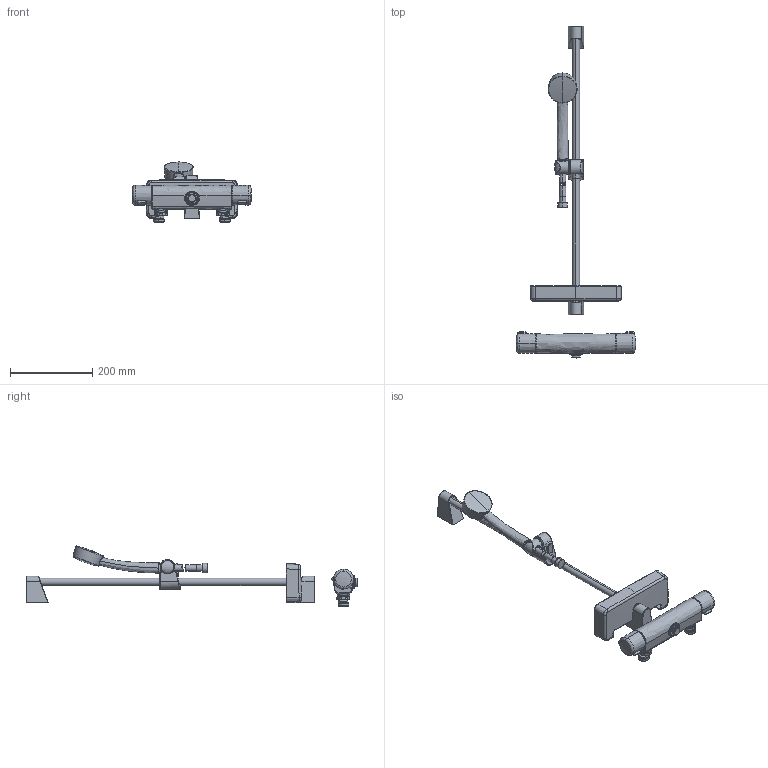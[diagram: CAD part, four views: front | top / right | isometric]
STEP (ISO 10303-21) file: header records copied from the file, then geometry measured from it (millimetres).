
FILE_DESCRIPTION (( 'STEP AP203' ), '1' );
FILE_NAME ('7422G-33(2023).STEP', '2023-05-26T09:17:29', ( '' ), ( '' ), 'SwSTEP 2.0', 'SolidWorks 2016', '' );
FILE_SCHEMA (( 'CONFIG_CONTROL_DESIGN' ));
Length unit declared in the file: millimetre
Products named in the file (1): 7422G-33(2023)
Bounding box: 289.19 x 805.9 x 145.72 mm (x, y, z)
Volume: 1484262 mm3; surface area: 256092.8 mm2
Topology: 21 solids, 21 shells, 553 faces, 1247 edges, 743 vertices
Faces by surface type: bspline 210, cylinder 120, plane 101, cone 59, torus 55, sphere 8
Entity records: 31722 total; most frequent: CARTESIAN_POINT 20930, ORIENTED_EDGE 2486, DIRECTION 1900, EDGE_CURVE 1243, AXIS2_PLACEMENT_3D 817, VERTEX_POINT 743, EDGE_LOOP 564, FACE_OUTER_BOUND 553
